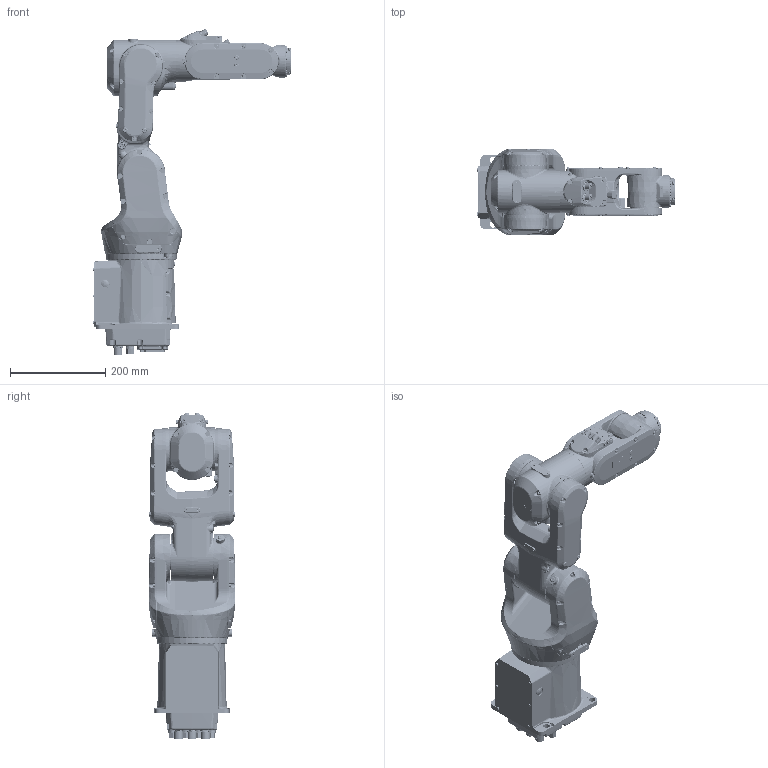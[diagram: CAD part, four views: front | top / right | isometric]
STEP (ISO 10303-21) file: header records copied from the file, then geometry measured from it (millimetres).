
FILE_DESCRIPTION (( 'STEP AP214' ), '1' );
FILE_NAME ('IRB1100_4kg-475-BTM_OmniCore_rev04_STEP_C.STEP', '2021-11-01T08:43:38', ( '' ), ( '' ), 'SwSTEP 2.0', 'SolidWorks 2018', '' );
FILE_SCHEMA (( 'AUTOMOTIVE_DESIGN' ));
Length unit declared in the file: millimetre
Products named in the file (8): IRB1100_4kg-475_OmniCore_rev03_Link02_CAD_j.sat; IRB1100_4kg-475_OmniCore_rev03_Link04_CAD_j.sat; IRB1100_4kg-475-BTM_OmniCore_rev03_BASE_ACIS; IRB1100_4kg-475_OmniCore_rev03_Link01_CAD_j; IRB1100_4kg-475_OmniCore_rev03_Link06_CAD_j.sat; IRB1100_4kg-475_OmniCore_rev03_Link03_CAD_j.sat; IRB1100_4kg-475-BTM_OmniCore_rev04_STEP_C; IRB1100_4kg-475_OmniCore_rev03_Link05_CAD_j.sat
Assembly tree (7 placements, depth 2):
  IRB1100_4kg-475-BTM_OmniCore_rev04_STEP_C
    IRB1100_4kg-475_OmniCore_rev03_Link01_CAD_j
    IRB1100_4kg-475_OmniCore_rev03_Link02_CAD_j.sat
    IRB1100_4kg-475_OmniCore_rev03_Link03_CAD_j.sat
    IRB1100_4kg-475_OmniCore_rev03_Link04_CAD_j.sat
    IRB1100_4kg-475_OmniCore_rev03_Link05_CAD_j.sat
    IRB1100_4kg-475_OmniCore_rev03_Link06_CAD_j.sat
    IRB1100_4kg-475-BTM_OmniCore_rev03_BASE_ACIS
Bounding box: 415 x 182.27 x 683.53 mm (x, y, z)
Volume: 11841995.4 mm3; surface area: 726335.2 mm2
Topology: 7 solids, 15 shells, 5772 faces, 14709 edges, 9072 vertices
Faces by surface type: bspline 2040, plane 1753, cylinder 1063, cone 543, torus 344, sphere 29
Entity records: 322267 total; most frequent: CARTESIAN_POINT 202040, ORIENTED_EDGE 29102, DIRECTION 18689, EDGE_CURVE 14551, VERTEX_POINT 9072, AXIS2_PLACEMENT_3D 6971, EDGE_LOOP 6115, B_SPLINE_CURVE_WITH_KNOTS 5821
